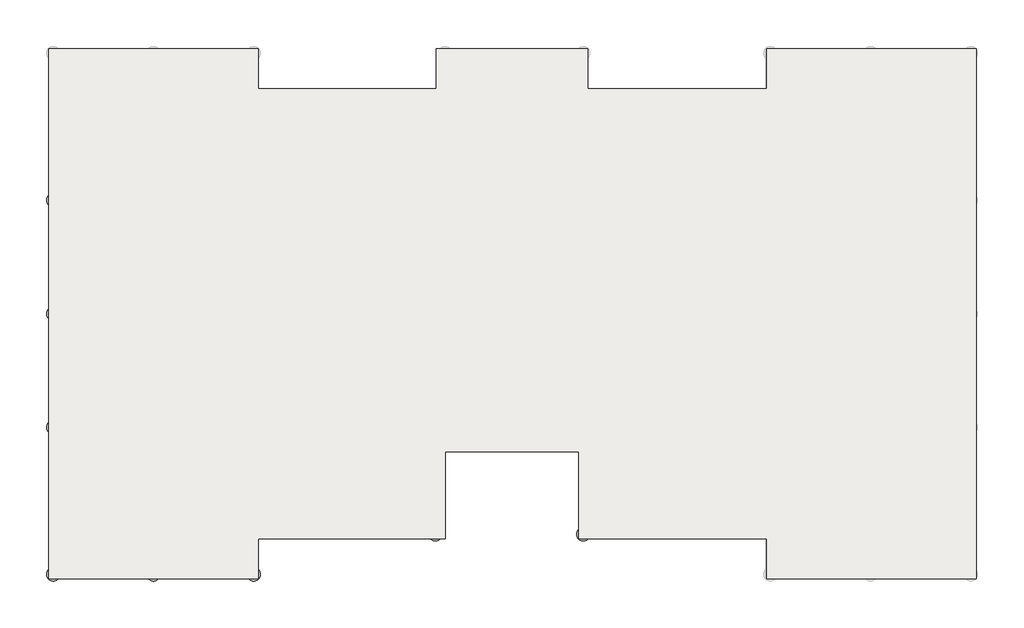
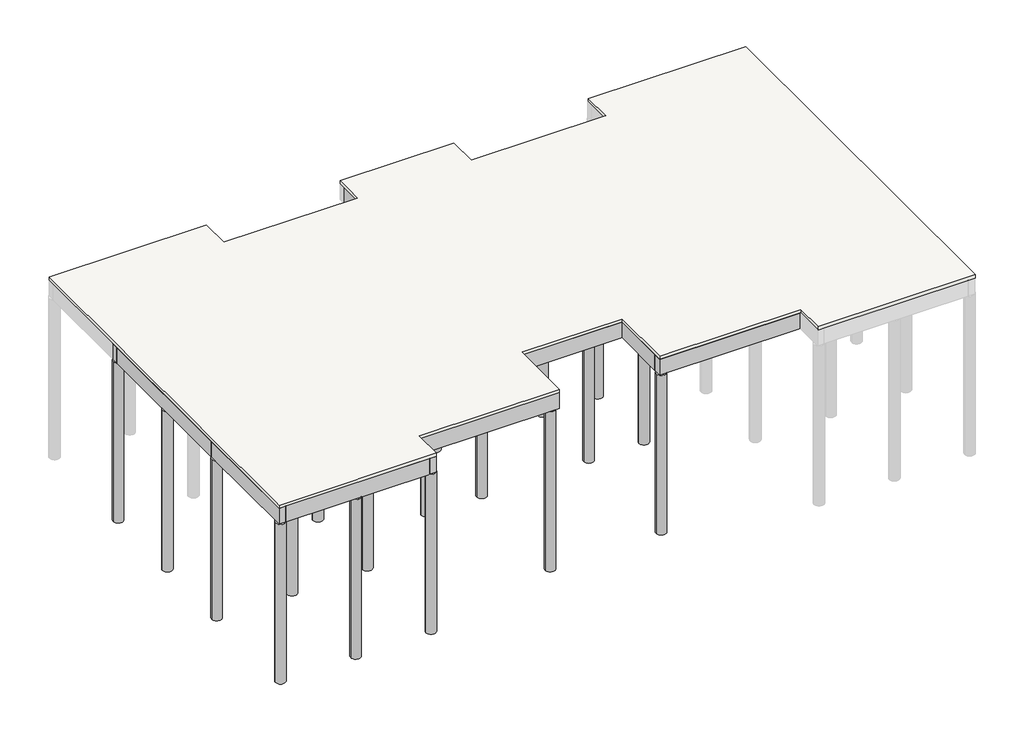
# One storey, part 1 of 2: 20 beams, 19 columns, 1 slab.
"""IFC4 building model written with IfcOpenShell, lengths in millimetres."""

from ifc_helpers import new_model, si_unit, point, frame, frame_2d, origin, place, context, project, spatial, polyline, circle_curve, trimmed, segment, composite_curve, outline, extrude, faceted_brep, element, save

model = new_model("IFC4")

# Units and contexts
model_context = context("Model", 3, world=origin())
ifc_project = project(units=[si_unit("LENGTHUNIT", "METRE", prefix="MILLI")], contexts=[model_context])

# Site, building, storey
site = spatial("IfcSite", under=ifc_project)
building = spatial("IfcBuilding", under=site)
storey = spatial("IfcBuildingStorey", under=building, Name="Baldrame", Elevation=-100.0)

# Beams
placement = place(None, origin())
element("IfcBeam", 1, ObjectType="Viga retangular : 20 x 30", at=placement, inside=storey, context=model_context, shape_type="SweptSolid", body=[
    extrude(outline(polyline([(4500.0002754, 2899.9968464), (4500.0002754, 2699.9968464), (3349.9999153, 2699.9968464), (3349.9999153, 2899.9968464), (4500.0002754, 2899.9968464)])), frame((0.0, 0.0, -400.0), z_axis=(0.0, 0.0, 1.0), x_axis=(1.0, 0.0, 0.0)), (0.0, 0.0, 1.0), 300.0),
])
element("IfcBeam", 2, ObjectType="Viga retangular : 20 x 30", at=placement, inside=storey, context=model_context, shape_type="SweptSolid", body=[
    extrude(outline(polyline([(7249.9960549, 5099.9992075), (7249.9960549, 5299.9992075), (8699.999281, 5299.9992075), (8699.999281, 5099.9992075), (7249.9960549, 5099.9992075)])), frame((0.0, 0.0, -400.0), z_axis=(0.0, 0.0, 1.0), x_axis=(1.0, 0.0, 0.0)), (0.0, 0.0, 1.0), 300.0),
])
element("IfcBeam", 3, ObjectType="Viga retangular : 20 x 30", at=placement, inside=storey, context=model_context, shape_type="SweptSolid", body=[
    extrude(outline(polyline([(7249.9960549, 7500.0067762), (7249.9960549, 7700.0067762), (8699.999281, 7700.0067762), (8699.999281, 7500.0067762), (7249.9960549, 7500.0067762)])), frame((0.0, 0.0, -400.0), z_axis=(0.0, 0.0, 1.0), x_axis=(1.0, 0.0, 0.0)), (0.0, 0.0, 1.0), 300.0),
])
element("IfcBeam", 4, ObjectType="Viga retangular : 20 x 30", at=placement, inside=storey, context=model_context, shape_type="SweptSolid", body=[
    extrude(outline(polyline([(13549.9952153, 7700.0067762), (13549.9952153, 7500.0067762), (12099.9983388, 7500.0067762), (12099.9983388, 7700.0067762), (13549.9952153, 7700.0067762)])), frame((0.0, 0.0, -400.0), z_axis=(0.0, 0.0, 1.0), x_axis=(1.0, 0.0, 0.0)), (0.0, 0.0, 1.0), 300.0),
])
element("IfcBeam", 5, ObjectType="Viga retangular : 20 x 30", at=placement, inside=storey, context=model_context, shape_type="SweptSolid", body=[
    extrude(outline(polyline([(13549.9952153, 5299.9989147), (13549.9952153, 5099.9989147), (12099.9983388, 5099.9989147), (12099.9983388, 5299.9989147), (13549.9952153, 5299.9989147)])), frame((0.0, 0.0, -400.0), z_axis=(0.0, 0.0, 1.0), x_axis=(1.0, 0.0, 0.0)), (0.0, 0.0, 1.0), 300.0),
])
element("IfcBeam", 6, ObjectType="Viga retangular : 20 x 50", at=placement, inside=storey, context=model_context, shape_type="Brep", body=[
    faceted_brep([(4500.0002754, 449.9952456, -100.0), (4700.0002754, 449.9952456, -100.0), (4700.0002754, 1349.9984985, -100.0), (4700.0002754, 1599.9984985, -100.0), (4700.0002754, 6300.0104083, -100.0), (4700.0002754, 6500.0104083, -100.0), (4700.0002754, 11200.007048, -100.0), (4700.0002754, 11450.007048, -100.0), (4700.0002754, 12150.0105618, -100.0), (4500.0002754, 12150.0105618, -100.0), (4500.0002754, 10100.0088444, -100.0), (4500.0002754, 9900.0088444, -100.0), (4500.0002754, 9050.0104593, -100.0), (4500.0002754, 8850.0104593, -100.0), (4500.0002754, 6500.0104083, -100.0), (4500.0002754, 6300.0104083, -100.0), (4500.0002754, 3949.995348, -100.0), (4500.0002754, 3749.995348, -100.0), (4500.0002754, 2899.9968464, -100.0), (4500.0002754, 2699.9968464, -100.0), (4500.0002754, 649.9952456, -100.0), (4700.0002754, 449.9952456, -600.0), (4700.0002754, 1349.9984985, -600.0), (4700.0002754, 1599.9984985, -600.0), (4700.0002754, 6300.0104083, -600.0), (4700.0002754, 6500.0104083, -600.0), (4700.0002754, 11200.007048, -600.0), (4700.0002754, 11450.007048, -600.0), (4700.0002754, 12150.0105618, -600.0), (4500.0002754, 449.9952456, -600.0), (4500.0002754, 649.9952456, -600.0), (4500.0002754, 3749.995348, -600.0), (4500.0002754, 3949.995348, -600.0), (4500.0002754, 6300.0104083, -600.0), (4500.0002754, 6500.0104083, -600.0), (4500.0002754, 8850.0104593, -600.0), (4500.0002754, 9050.0104593, -600.0), (4500.0002754, 12150.0105618, -600.0)], [[[0, 1, 2, 3, 4, 5, 6, 7, 8, 9, 10, 11, 12, 13, 14, 15, 16, 17, 18, 19, 20]], [[1, 21, 22, 23, 24, 25, 26, 27, 28, 8, 7, 6, 5, 4, 3, 2]], [[21, 29, 30, 31, 32, 33, 34, 35, 36, 37, 28, 27, 26, 25, 24, 23, 22]], [[29, 0, 20, 19, 18, 17, 16, 15, 14, 13, 12, 11, 10, 9, 37, 36, 35, 34, 33, 32, 31, 30]], [[9, 8, 28, 37]], [[1, 0, 29, 21]]]),
])
element("IfcBeam", 7, ObjectType="Viga retangular : 20 x 50", at=placement, inside=storey, context=model_context, shape_type="Brep", body=[
    faceted_brep([(8699.999281, 1599.9984985, -100.0), (8899.999281, 1599.9984985, -100.0), (8899.999281, 3300.0046088, -100.0), (8899.999281, 3500.0046088, -100.0), (8899.999281, 12149.9988127, -100.0), (8699.999281, 12149.9988127, -100.0), (8699.999281, 11450.007048, -100.0), (8699.999281, 11200.007048, -100.0), (8699.999281, 7700.0067762, -100.0), (8699.999281, 7500.0067762, -100.0), (8699.999281, 5299.9992075, -100.0), (8699.999281, 5099.9992075, -100.0), (8899.999281, 1599.9984985, -600.0), (8899.999281, 3300.0046088, -600.0), (8899.999281, 3500.0046088, -600.0), (8899.999281, 12149.9988127, -600.0), (8699.999281, 1599.9984985, -600.0), (8699.999281, 11200.007048, -600.0), (8699.999281, 11450.007048, -600.0), (8699.999281, 12149.9988127, -600.0)], [[[0, 1, 2, 3, 4, 5, 6, 7, 8, 9, 10, 11]], [[1, 12, 13, 14, 15, 4, 3, 2]], [[12, 16, 17, 18, 19, 15, 14, 13]], [[16, 0, 11, 10, 9, 8, 7, 6, 5, 19, 18, 17]], [[1, 0, 16, 12]], [[5, 4, 15, 19]]]),
])
element("IfcBeam", 8, ObjectType="Viga retangular : 20 x 50", at=placement, inside=storey, context=model_context, shape_type="Brep", body=[
    faceted_brep([(1.84e-05, 449.9952456, -100.0), (200.0000184, 449.9952456, -100.0), (200.0000184, 649.9952456, -100.0), (200.0000184, 3749.995348, -100.0), (200.0000184, 3949.995348, -100.0), (1.84e-05, 3949.995348, -100.0), (200.0000184, 449.9952456, -600.0), (200.0000184, 649.9952456, -600.0), (200.0000184, 3749.995348, -600.0), (200.0000184, 3949.995348, -600.0), (1.84e-05, 449.9952456, -600.0), (1.84e-05, 3949.995348, -600.0)], [[[0, 1, 2, 3, 4, 5]], [[1, 6, 7, 8, 9, 4, 3, 2]], [[6, 10, 11, 9, 8, 7]], [[10, 0, 5, 11]], [[1, 0, 10, 6]], [[5, 4, 9, 11]]]),
])
element("IfcBeam", 9, ObjectType="Viga retangular : 20 x 50", at=placement, inside=storey, context=model_context, shape_type="Brep", body=[
    faceted_brep([(4500.0002754, 3749.995348, -100.0), (4500.0002754, 3949.995348, -100.0), (200.0000184, 3949.995348, -100.0), (200.0000184, 3749.995348, -100.0), (3149.9999153, 3749.995348, -100.0), (3349.9999153, 3749.995348, -100.0), (4500.0002754, 3749.995348, -600.0), (200.0000184, 3749.995348, -600.0), (3149.9999153, 3749.995348, -600.0), (3349.9999153, 3749.995348, -600.0), (4500.0002754, 3949.995348, -600.0), (200.0000184, 3949.995348, -600.0)], [[[0, 1, 2, 3, 4, 5]], [[6, 0, 5, 4, 3, 7, 8, 9]], [[10, 6, 9, 8, 7, 11]], [[1, 10, 11, 2]], [[1, 0, 6, 10]], [[3, 2, 11, 7]]]),
])
element("IfcBeam", 10, ObjectType="Viga retangular : 20 x 50", at=placement, inside=storey, context=model_context, shape_type="Brep", body=[
    faceted_brep([(1.84e-05, 3949.995348, -100.0), (200.0000184, 3949.995348, -100.0), (200.0000184, 6300.0104083, -100.0), (200.0000184, 6500.0104083, -100.0), (200.0000184, 8850.0104593, -100.0), (1.84e-05, 8850.0104593, -100.0), (200.0000184, 3949.995348, -600.0), (200.0000184, 6300.0104083, -600.0), (200.0000184, 6500.0104083, -600.0), (200.0000184, 8850.0104593, -600.0), (1.84e-05, 3949.995348, -600.0), (1.84e-05, 8850.0104593, -600.0)], [[[0, 1, 2, 3, 4, 5]], [[1, 6, 7, 8, 9, 4, 3, 2]], [[6, 10, 11, 9, 8, 7]], [[10, 0, 5, 11]], [[1, 0, 10, 6]], [[5, 4, 9, 11]]]),
])
element("IfcBeam", 11, ObjectType="Viga retangular : 20 x 50", at=placement, inside=storey, context=model_context, shape_type="Brep", body=[
    faceted_brep([(1.84e-05, 9050.0104593, -100.0), (1.84e-05, 8850.0104593, -100.0), (200.0000184, 8850.0104593, -100.0), (4500.0002754, 8850.0104593, -100.0), (4500.0002754, 9050.0104593, -100.0), (3349.9979087, 9050.0104593, -100.0), (3149.9979087, 9050.0104593, -100.0), (200.0000184, 9050.0104593, -100.0), (1.84e-05, 8850.0104593, -600.0), (200.0000184, 8850.0104593, -600.0), (4500.0002754, 8850.0104593, -600.0), (1.84e-05, 9050.0104593, -600.0), (200.0000184, 9050.0104593, -600.0), (3149.9979087, 9050.0104593, -600.0), (3349.9979087, 9050.0104593, -600.0), (4500.0002754, 9050.0104593, -600.0)], [[[0, 1, 2, 3, 4, 5, 6, 7]], [[1, 8, 9, 10, 3, 2]], [[8, 11, 12, 13, 14, 15, 10, 9]], [[11, 0, 7, 6, 5, 4, 15, 14, 13, 12]], [[4, 3, 10, 15]], [[1, 0, 11, 8]]]),
])
element("IfcBeam", 12, ObjectType="Viga retangular : 20 x 50", at=placement, inside=storey, context=model_context, shape_type="SweptSolid", body=[
    extrude(outline(polyline([(4700.0002754, 6300.0104083), (4700.0002754, 6500.0104083), (7049.9960549, 6500.0104083), (7049.9960549, 6300.0104083), (4700.0002754, 6300.0104083)])), frame((0.0, 0.0, -600.0), z_axis=(0.0, 0.0, 1.0), x_axis=(1.0, 0.0, 0.0)), (0.0, 0.0, 1.0), 500.0),
    extrude(outline(polyline([(4500.0002754, 6500.0104083), (4500.0002754, 6300.0104083), (200.0000184, 6300.0104083), (200.0000184, 6500.0104083), (4500.0002754, 6500.0104083)])), frame((0.0, 0.0, -600.0), z_axis=(0.0, 0.0, 1.0), x_axis=(1.0, 0.0, 0.0)), (0.0, 0.0, 1.0), 500.0),
])
element("IfcBeam", 13, ObjectType="Viga retangular : 20 x 50", at=placement, inside=storey, context=model_context, shape_type="Brep", body=[
    faceted_brep([(3349.9999153, 3749.995348, -100.0), (3149.9999153, 3749.995348, -100.0), (3149.9999153, 649.9952456, -100.0), (3349.9999153, 649.9952456, -100.0), (3349.9999153, 2699.9968464, -100.0), (3349.9999153, 2899.9968464, -100.0), (3349.9999153, 3749.995348, -600.0), (3349.9999153, 649.9952456, -600.0), (3149.9999153, 3749.995348, -600.0), (3149.9999153, 649.9952456, -600.0)], [[[0, 1, 2, 3, 4, 5]], [[6, 0, 5, 4, 3, 7]], [[8, 6, 7, 9]], [[1, 8, 9, 2]], [[1, 0, 6, 8]], [[3, 2, 9, 7]]]),
])
element("IfcBeam", 14, ObjectType="Viga retangular : 20 x 50", at=placement, inside=storey, context=model_context, shape_type="Brep", body=[
    faceted_brep([(4500.0002754, 449.9952456, -100.0), (4500.0002754, 649.9952456, -100.0), (3349.9999153, 649.9952456, -100.0), (3149.9999153, 649.9952456, -100.0), (200.0000184, 649.9952456, -100.0), (200.0000184, 449.9952456, -100.0), (4500.0002754, 449.9952456, -600.0), (200.0000184, 449.9952456, -600.0), (4500.0002754, 649.9952456, -600.0), (200.0000184, 649.9952456, -600.0), (3149.9999153, 649.9952456, -600.0), (3349.9999153, 649.9952456, -600.0)], [[[0, 1, 2, 3, 4, 5]], [[6, 0, 5, 7]], [[8, 6, 7, 9, 10, 11]], [[1, 8, 11, 10, 9, 4, 3, 2]], [[1, 0, 6, 8]], [[5, 4, 9, 7]]]),
])
element("IfcBeam", 15, ObjectType="Viga retangular : 20 x 50", at=placement, inside=storey, context=model_context, shape_type="Brep", body=[
    faceted_brep([(7249.9960549, 11200.007048, -100.0), (7049.9960549, 11200.007048, -100.0), (7049.9960549, 6500.0104083, -100.0), (7049.9960549, 6300.0104083, -100.0), (7049.9960549, 1599.9984985, -100.0), (7249.9960549, 1599.9984985, -100.0), (7249.9960549, 5099.9992075, -100.0), (7249.9960549, 5299.9992075, -100.0), (7249.9960549, 7500.0067762, -100.0), (7249.9960549, 7700.0067762, -100.0), (7249.9960549, 11200.007048, -600.0), (7249.9960549, 1599.9984985, -600.0), (7049.9960549, 11200.007048, -600.0), (7049.9960549, 1599.9984985, -600.0), (7049.9960549, 6300.0104083, -600.0), (7049.9960549, 6500.0104083, -600.0)], [[[0, 1, 2, 3, 4, 5, 6, 7, 8, 9]], [[10, 0, 9, 8, 7, 6, 5, 11]], [[12, 10, 11, 13, 14, 15]], [[1, 12, 15, 14, 13, 4, 3, 2]], [[1, 0, 10, 12]], [[5, 4, 13, 11]]]),
])
element("IfcBeam", 16, ObjectType="Viga retangular : 20 x 50", at=placement, inside=storey, context=model_context, shape_type="SweptSolid", body=[
    extrude(outline(polyline([(8899.999281, 3300.0046088), (8899.999281, 3500.0046088), (11899.9983388, 3500.0046088), (11899.9983388, 3300.0046088), (8899.999281, 3300.0046088)])), frame((0.0, 0.0, -600.0), z_axis=(0.0, 0.0, 1.0), x_axis=(1.0, 0.0, 0.0)), (0.0, 0.0, 1.0), 500.0),
])
element("IfcBeam", 17, ObjectType="Viga retangular : 20 x 50", at=placement, inside=storey, context=model_context, shape_type="Brep", body=[
    faceted_brep([(13549.9952153, 1599.9990079, -100.0), (13749.9952153, 1599.9990079, -100.0), (13749.9952153, 6300.0028454, -100.0), (13749.9952153, 6500.0028454, -100.0), (13749.9952153, 11200.0071923, -100.0), (13549.9952153, 11200.0071923, -100.0), (13549.9952153, 7700.0067762, -100.0), (13549.9952153, 7500.0067762, -100.0), (13549.9952153, 5299.9989147, -100.0), (13549.9952153, 5099.9989147, -100.0), (13749.9952153, 1599.9990079, -600.0), (13749.9952153, 6300.0028454, -600.0), (13749.9952153, 6500.0028454, -600.0), (13749.9952153, 11200.0071923, -600.0), (13549.9952153, 1599.9990079, -600.0), (13549.9952153, 11200.0071923, -600.0)], [[[0, 1, 2, 3, 4, 5, 6, 7, 8, 9]], [[1, 10, 11, 12, 13, 4, 3, 2]], [[10, 14, 15, 13, 12, 11]], [[14, 0, 9, 8, 7, 6, 5, 15]], [[1, 0, 14, 10]], [[5, 4, 13, 15]]]),
])
element("IfcBeam", 18, ObjectType="Viga retangular : 20 x 50", at=placement, inside=storey, context=model_context, shape_type="Brep", body=[
    faceted_brep([(11899.9983388, 1599.9990079, -100.0), (12099.9983388, 1599.9990079, -100.0), (12099.9983388, 5099.9989147, -100.0), (12099.9983388, 5299.9989147, -100.0), (12099.9983388, 7500.0067762, -100.0), (12099.9983388, 7700.0067762, -100.0), (12099.9983388, 10900.0024617, -100.0), (11899.9983388, 10900.0024617, -100.0), (11899.9983388, 3500.0046088, -100.0), (11899.9983388, 3300.0046088, -100.0), (12099.9983388, 1599.9990079, -600.0), (12099.9983388, 10900.0024617, -600.0), (11899.9983388, 1599.9990079, -600.0), (11899.9983388, 3300.0046088, -600.0), (11899.9983388, 3500.0046088, -600.0), (11899.9983388, 10900.0024617, -600.0)], [[[0, 1, 2, 3, 4, 5, 6, 7, 8, 9]], [[1, 10, 11, 6, 5, 4, 3, 2]], [[10, 12, 13, 14, 15, 11]], [[12, 0, 9, 8, 7, 15, 14, 13]], [[1, 0, 12, 10]], [[7, 6, 11, 15]]]),
])
element("IfcBeam", 19, ObjectType="Viga retangular : 25 x 50", at=placement, inside=storey, context=model_context, shape_type="Brep", body=[
    faceted_brep([(8899.999281, 1349.9984985, -100.0), (8899.999281, 1599.9984985, -100.0), (8699.999281, 1599.9984985, -100.0), (7249.9960549, 1599.9984985, -100.0), (7049.9960549, 1599.9984985, -100.0), (4700.0002754, 1599.9984985, -100.0), (4700.0002754, 1349.9984985, -100.0), (8899.999281, 1349.9984985, -600.0), (4700.0002754, 1349.9984985, -600.0), (8899.999281, 1599.9984985, -600.0), (4700.0002754, 1599.9984985, -600.0), (7049.9960549, 1599.9984985, -600.0), (7249.9960549, 1599.9984985, -600.0), (8699.999281, 1599.9984985, -600.0)], [[[0, 1, 2, 3, 4, 5, 6]], [[7, 0, 6, 8]], [[9, 7, 8, 10, 11, 12, 13]], [[1, 9, 13, 12, 11, 10, 5, 4, 3, 2]], [[6, 5, 10, 8]], [[1, 0, 7, 9]]]),
])
element("IfcBeam", 20, ObjectType="Viga retangular : 25 x 50", at=placement, inside=storey, context=model_context, shape_type="Brep", body=[
    faceted_brep([(11899.9983388, 1599.9990079, -100.0), (11899.9983388, 1349.9990079, -100.0), (16099.9991493, 1349.9990079, -100.0), (16099.9991493, 1599.9990079, -100.0), (13749.9952153, 1599.9990079, -100.0), (13549.9952153, 1599.9990079, -100.0), (12099.9983388, 1599.9990079, -100.0), (11899.9983388, 1349.9990079, -600.0), (16099.9991493, 1349.9990079, -600.0), (11899.9983388, 1599.9990079, -600.0), (12099.9983388, 1599.9990079, -600.0), (13549.9952153, 1599.9990079, -600.0), (13749.9952153, 1599.9990079, -600.0), (16099.9991493, 1599.9990079, -600.0)], [[[0, 1, 2, 3, 4, 5, 6]], [[1, 7, 8, 2]], [[7, 9, 10, 11, 12, 13, 8]], [[9, 0, 6, 5, 4, 3, 13, 12, 11, 10]], [[3, 2, 8, 13]], [[1, 0, 9, 7]]]),
])

# Columns
element("IfcColumn", 21, ObjectType="Estaca de Concreto : Estaca de Concreto  Ø30", at=placement, inside=storey, context=model_context, shape_type="SweptSolid", body=[
    extrude(outline(composite_curve([segment(trimmed(circle_curve(frame_2d((100.0000184, 8950.0104593)), 150.0), [point((-49.9999816, 8950.0104593))], [point((250.0000184, 8950.0104593))], False, "CARTESIAN"), True, "CONTINUOUS"), segment(trimmed(circle_curve(frame_2d((100.0000184, 8950.0104593)), 150.0), [point((250.0000184, 8950.0104593))], [point((-49.9999816, 8950.0104593))], False, "CARTESIAN"), True, "CONTINUOUS")], self_intersect=False)), frame((0.0, 0.0, -5650.0), z_axis=(0.0, 0.0, 1.0), x_axis=(1.0, 0.0, 0.0)), (0.0, 0.0, 1.0), 5050.0),
])
element("IfcColumn", 22, ObjectType="Estaca de Concreto : Estaca de Concreto  Ø30", at=placement, inside=storey, context=model_context, shape_type="SweptSolid", body=[
    extrude(outline(composite_curve([segment(trimmed(circle_curve(frame_2d((100.0000184, 6400.0104083)), 150.0), [point((-49.9999816, 6400.0104083))], [point((250.0000184, 6400.0104083))], False, "CARTESIAN"), True, "CONTINUOUS"), segment(trimmed(circle_curve(frame_2d((100.0000184, 6400.0104083)), 150.0), [point((250.0000184, 6400.0104083))], [point((-49.9999816, 6400.0104083))], False, "CARTESIAN"), True, "CONTINUOUS")], self_intersect=False)), frame((0.0, 0.0, -5650.0), z_axis=(0.0, 0.0, 1.0), x_axis=(1.0, 0.0, 0.0)), (0.0, 0.0, 1.0), 5050.0),
])
element("IfcColumn", 23, ObjectType="Estaca de Concreto : Estaca de Concreto  Ø30", at=placement, inside=storey, context=model_context, shape_type="SweptSolid", body=[
    extrude(outline(composite_curve([segment(trimmed(circle_curve(frame_2d((4599.9984727, 6400.0059093)), 150.0), [point((4449.9984727, 6400.0059093))], [point((4749.9984727, 6400.0059093))], False, "CARTESIAN"), True, "CONTINUOUS"), segment(trimmed(circle_curve(frame_2d((4599.9984727, 6400.0059093)), 150.0), [point((4749.9984727, 6400.0059093))], [point((4449.9984727, 6400.0059093))], False, "CARTESIAN"), True, "CONTINUOUS")], self_intersect=False)), frame((0.0, 0.0, -5650.0), z_axis=(0.0, 0.0, 1.0), x_axis=(1.0, 0.0, 0.0)), (0.0, 0.0, 1.0), 5050.0),
])
element("IfcColumn", 24, ObjectType="Estaca de Concreto : Estaca de Concreto  Ø30", at=placement, inside=storey, context=model_context, shape_type="SweptSolid", body=[
    extrude(outline(composite_curve([segment(trimmed(circle_curve(frame_2d((100.0000184, 3849.995348)), 150.0), [point((-49.9999816, 3849.995348))], [point((250.0000184, 3849.995348))], False, "CARTESIAN"), True, "CONTINUOUS"), segment(trimmed(circle_curve(frame_2d((100.0000184, 3849.995348)), 150.0), [point((250.0000184, 3849.995348))], [point((-49.9999816, 3849.995348))], False, "CARTESIAN"), True, "CONTINUOUS")], self_intersect=False)), frame((0.0, 0.0, -5650.0), z_axis=(0.0, 0.0, 1.0), x_axis=(1.0, 0.0, 0.0)), (0.0, 0.0, 1.0), 5050.0),
])
element("IfcColumn", 25, ObjectType="Estaca de Concreto : Estaca de Concreto  Ø30", at=placement, inside=storey, context=model_context, shape_type="SweptSolid", body=[
    extrude(outline(composite_curve([segment(trimmed(circle_curve(frame_2d((4600.0002754, 3849.9921964)), 150.0), [point((4450.0002754, 3849.9921964))], [point((4750.0002754, 3849.9921964))], False, "CARTESIAN"), True, "CONTINUOUS"), segment(trimmed(circle_curve(frame_2d((4600.0002754, 3849.9921964)), 150.0), [point((4750.0002754, 3849.9921964))], [point((4450.0002754, 3849.9921964))], False, "CARTESIAN"), True, "CONTINUOUS")], self_intersect=False)), frame((0.0, 0.0, -5650.0), z_axis=(0.0, 0.0, 1.0), x_axis=(1.0, 0.0, 0.0)), (0.0, 0.0, 1.0), 5050.0),
])
element("IfcColumn", 26, ObjectType="Estaca de Concreto : Estaca de Concreto  Ø30", at=placement, inside=storey, context=model_context, shape_type="SweptSolid", body=[
    extrude(outline(composite_curve([segment(trimmed(circle_curve(frame_2d((4600.0002754, 549.9907876)), 150.0), [point((4450.0002754, 549.9907876))], [point((4750.0002754, 549.9907876))], False, "CARTESIAN"), True, "CONTINUOUS"), segment(trimmed(circle_curve(frame_2d((4600.0002754, 549.9907876)), 150.0), [point((4750.0002754, 549.9907876))], [point((4450.0002754, 549.9907876))], False, "CARTESIAN"), True, "CONTINUOUS")], self_intersect=False)), frame((0.0, 0.0, -5650.0), z_axis=(0.0, 0.0, 1.0), x_axis=(1.0, 0.0, 0.0)), (0.0, 0.0, 1.0), 5050.0),
])
element("IfcColumn", 27, ObjectType="Estaca de Concreto : Estaca de Concreto  Ø30", at=placement, inside=storey, context=model_context, shape_type="SweptSolid", body=[
    extrude(outline(composite_curve([segment(trimmed(circle_curve(frame_2d((100.0000184, 549.9952456)), 150.0), [point((-49.9999816, 549.9952456))], [point((250.0000184, 549.9952456))], False, "CARTESIAN"), True, "CONTINUOUS"), segment(trimmed(circle_curve(frame_2d((100.0000184, 549.9952456)), 150.0), [point((250.0000184, 549.9952456))], [point((-49.9999816, 549.9952456))], False, "CARTESIAN"), True, "CONTINUOUS")], self_intersect=False)), frame((0.0, 0.0, -5650.0), z_axis=(0.0, 0.0, 1.0), x_axis=(1.0, 0.0, 0.0)), (0.0, 0.0, 1.0), 5050.0),
])
element("IfcColumn", 28, ObjectType="Estaca de Concreto : Estaca de Concreto  Ø30", at=placement, inside=storey, context=model_context, shape_type="SweptSolid", body=[
    extrude(outline(composite_curve([segment(trimmed(circle_curve(frame_2d((8679.999281, 1449.9990079)), 150.0), [point((8529.999281, 1449.9990079))], [point((8829.999281, 1449.9990079))], False, "CARTESIAN"), True, "CONTINUOUS"), segment(trimmed(circle_curve(frame_2d((8679.999281, 1449.9990079)), 150.0), [point((8829.999281, 1449.9990079))], [point((8529.999281, 1449.9990079))], False, "CARTESIAN"), True, "CONTINUOUS")], self_intersect=False)), frame((0.0, 0.0, -5650.0), z_axis=(0.0, 0.0, 1.0), x_axis=(1.0, 0.0, 0.0)), (0.0, 0.0, 1.0), 5050.0),
])
element("IfcColumn", 29, ObjectType="Estaca de Concreto : Estaca de Concreto  Ø30", at=placement, inside=storey, context=model_context, shape_type="SweptSolid", body=[
    extrude(outline(composite_curve([segment(trimmed(circle_curve(frame_2d((7149.9960549, 5199.9992075)), 150.0), [point((6999.9960549, 5199.9992075))], [point((7299.9960549, 5199.9992075))], False, "CARTESIAN"), True, "CONTINUOUS"), segment(trimmed(circle_curve(frame_2d((7149.9960549, 5199.9992075)), 150.0), [point((7299.9960549, 5199.9992075))], [point((6999.9960549, 5199.9992075))], False, "CARTESIAN"), True, "CONTINUOUS")], self_intersect=False)), frame((0.0, 0.0, -5650.0), z_axis=(0.0, 0.0, 1.0), x_axis=(1.0, 0.0, 0.0)), (0.0, 0.0, 1.0), 5050.0),
])
element("IfcColumn", 30, ObjectType="Estaca de Concreto : Estaca de Concreto  Ø30", at=placement, inside=storey, context=model_context, shape_type="SweptSolid", body=[
    extrude(outline(composite_curve([segment(trimmed(circle_curve(frame_2d((7149.9960549, 7600.0067762)), 150.0), [point((6999.9960549, 7600.0067762))], [point((7299.9960549, 7600.0067762))], False, "CARTESIAN"), True, "CONTINUOUS"), segment(trimmed(circle_curve(frame_2d((7149.9960549, 7600.0067762)), 150.0), [point((7299.9960549, 7600.0067762))], [point((6999.9960549, 7600.0067762))], False, "CARTESIAN"), True, "CONTINUOUS")], self_intersect=False)), frame((0.0, 0.0, -5650.0), z_axis=(0.0, 0.0, 1.0), x_axis=(1.0, 0.0, 0.0)), (0.0, 0.0, 1.0), 5050.0),
])
element("IfcColumn", 31, ObjectType="Estaca de Concreto : Estaca de Concreto  Ø30", at=placement, inside=storey, context=model_context, shape_type="SweptSolid", body=[
    extrude(outline(composite_curve([segment(trimmed(circle_curve(frame_2d((8799.9960555, 5199.9992075)), 150.0), [point((8649.9960555, 5199.9992075))], [point((8949.9960555, 5199.9992075))], False, "CARTESIAN"), True, "CONTINUOUS"), segment(trimmed(circle_curve(frame_2d((8799.9960555, 5199.9992075)), 150.0), [point((8949.9960555, 5199.9992075))], [point((8649.9960555, 5199.9992075))], False, "CARTESIAN"), True, "CONTINUOUS")], self_intersect=False)), frame((0.0, 0.0, -5650.0), z_axis=(0.0, 0.0, 1.0), x_axis=(1.0, 0.0, 0.0)), (0.0, 0.0, 1.0), 5050.0),
])
element("IfcColumn", 32, ObjectType="Estaca de Concreto : Estaca de Concreto  Ø30", at=placement, inside=storey, context=model_context, shape_type="SweptSolid", body=[
    extrude(outline(composite_curve([segment(trimmed(circle_curve(frame_2d((8799.9960555, 7600.0070725)), 150.0), [point((8649.9960555, 7600.0070725))], [point((8949.9960555, 7600.0070725))], False, "CARTESIAN"), True, "CONTINUOUS"), segment(trimmed(circle_curve(frame_2d((8799.9960555, 7600.0070725)), 150.0), [point((8949.9960555, 7600.0070725))], [point((8649.9960555, 7600.0070725))], False, "CARTESIAN"), True, "CONTINUOUS")], self_intersect=False)), frame((0.0, 0.0, -5650.0), z_axis=(0.0, 0.0, 1.0), x_axis=(1.0, 0.0, 0.0)), (0.0, 0.0, 1.0), 5050.0),
])
element("IfcColumn", 33, ObjectType="Estaca de Concreto : Estaca de Concreto  Ø30", at=placement, inside=storey, context=model_context, shape_type="SweptSolid", body=[
    extrude(outline(composite_curve([segment(trimmed(circle_curve(frame_2d((2350.0001469, 3849.995348)), 150.0), [point((2200.0001469, 3849.995348))], [point((2500.0001469, 3849.995348))], False, "CARTESIAN"), True, "CONTINUOUS"), segment(trimmed(circle_curve(frame_2d((2350.0001469, 3849.995348)), 150.0), [point((2500.0001469, 3849.995348))], [point((2200.0001469, 3849.995348))], False, "CARTESIAN"), True, "CONTINUOUS")], self_intersect=False)), frame((0.0, 0.0, -5650.0), z_axis=(0.0, 0.0, 1.0), x_axis=(1.0, 0.0, 0.0)), (0.0, 0.0, 1.0), 5050.0),
])
element("IfcColumn", 34, ObjectType="Estaca de Concreto : Estaca de Concreto  Ø30", at=placement, inside=storey, context=model_context, shape_type="SweptSolid", body=[
    extrude(outline(composite_curve([segment(trimmed(circle_curve(frame_2d((2350.0001469, 549.9952456)), 150.0), [point((2200.0001469, 549.9952456))], [point((2500.0001469, 549.9952456))], False, "CARTESIAN"), True, "CONTINUOUS"), segment(trimmed(circle_curve(frame_2d((2350.0001469, 549.9952456)), 150.0), [point((2500.0001469, 549.9952456))], [point((2200.0001469, 549.9952456))], False, "CARTESIAN"), True, "CONTINUOUS")], self_intersect=False)), frame((0.0, 0.0, -5650.0), z_axis=(0.0, 0.0, 1.0), x_axis=(1.0, 0.0, 0.0)), (0.0, 0.0, 1.0), 5050.0),
])
element("IfcColumn", 35, ObjectType="Estaca de Concreto : Estaca de Concreto  Ø30", at=placement, inside=storey, context=model_context, shape_type="SweptSolid", body=[
    extrude(outline(composite_curve([segment(trimmed(circle_curve(frame_2d((13649.9952153, 5199.9989147)), 150.0), [point((13499.9952153, 5199.9989147))], [point((13799.9952153, 5199.9989147))], False, "CARTESIAN"), True, "CONTINUOUS"), segment(trimmed(circle_curve(frame_2d((13649.9952153, 5199.9989147)), 150.0), [point((13799.9952153, 5199.9989147))], [point((13499.9952153, 5199.9989147))], False, "CARTESIAN"), True, "CONTINUOUS")], self_intersect=False)), frame((0.0, 0.0, -5650.0), z_axis=(0.0, 0.0, 1.0), x_axis=(1.0, 0.0, 0.0)), (0.0, 0.0, 1.0), 5050.0),
])
element("IfcColumn", 36, ObjectType="Estaca de Concreto : Estaca de Concreto  Ø30", at=placement, inside=storey, context=model_context, shape_type="SweptSolid", body=[
    extrude(outline(composite_curve([segment(trimmed(circle_curve(frame_2d((13649.9952153, 7600.0067762)), 150.0), [point((13499.9952153, 7600.0067762))], [point((13799.9952153, 7600.0067762))], False, "CARTESIAN"), True, "CONTINUOUS"), segment(trimmed(circle_curve(frame_2d((13649.9952153, 7600.0067762)), 150.0), [point((13799.9952153, 7600.0067762))], [point((13499.9952153, 7600.0067762))], False, "CARTESIAN"), True, "CONTINUOUS")], self_intersect=False)), frame((0.0, 0.0, -5650.0), z_axis=(0.0, 0.0, 1.0), x_axis=(1.0, 0.0, 0.0)), (0.0, 0.0, 1.0), 5050.0),
])
element("IfcColumn", 37, ObjectType="Estaca de Concreto : Estaca de Concreto  Ø30", at=placement, inside=storey, context=model_context, shape_type="SweptSolid", body=[
    extrude(outline(composite_curve([segment(trimmed(circle_curve(frame_2d((11999.9983388, 1449.9990079)), 150.0), [point((11849.9983388, 1449.9990079))], [point((12149.9983388, 1449.9990079))], False, "CARTESIAN"), True, "CONTINUOUS"), segment(trimmed(circle_curve(frame_2d((11999.9983388, 1449.9990079)), 150.0), [point((12149.9983388, 1449.9990079))], [point((11849.9983388, 1449.9990079))], False, "CARTESIAN"), True, "CONTINUOUS")], self_intersect=False)), frame((0.0, 0.0, -5650.0), z_axis=(0.0, 0.0, 1.0), x_axis=(1.0, 0.0, 0.0)), (0.0, 0.0, 1.0), 5050.0),
])
element("IfcColumn", 38, ObjectType="Estaca de Concreto : Estaca de Concreto  Ø30", at=placement, inside=storey, context=model_context, shape_type="SweptSolid", body=[
    extrude(outline(composite_curve([segment(trimmed(circle_curve(frame_2d((11999.9951133, 5199.9992075)), 150.0), [point((11849.9951133, 5199.9992075))], [point((12149.9951133, 5199.9992075))], False, "CARTESIAN"), True, "CONTINUOUS"), segment(trimmed(circle_curve(frame_2d((11999.9951133, 5199.9992075)), 150.0), [point((12149.9951133, 5199.9992075))], [point((11849.9951133, 5199.9992075))], False, "CARTESIAN"), True, "CONTINUOUS")], self_intersect=False)), frame((0.0, 0.0, -5650.0), z_axis=(0.0, 0.0, 1.0), x_axis=(1.0, 0.0, 0.0)), (0.0, 0.0, 1.0), 5050.0),
])
element("IfcColumn", 39, ObjectType="Estaca de Concreto : Estaca de Concreto  Ø30", at=placement, inside=storey, context=model_context, shape_type="SweptSolid", body=[
    extrude(outline(composite_curve([segment(trimmed(circle_curve(frame_2d((11999.9951133, 7600.0070725)), 150.0), [point((11849.9951133, 7600.0070725))], [point((12149.9951133, 7600.0070725))], False, "CARTESIAN"), True, "CONTINUOUS"), segment(trimmed(circle_curve(frame_2d((11999.9951133, 7600.0070725)), 150.0), [point((12149.9951133, 7600.0070725))], [point((11849.9951133, 7600.0070725))], False, "CARTESIAN"), True, "CONTINUOUS")], self_intersect=False)), frame((0.0, 0.0, -5650.0), z_axis=(0.0, 0.0, 1.0), x_axis=(1.0, 0.0, 0.0)), (0.0, 0.0, 1.0), 5050.0),
])

# Slab
element("IfcSlab", 40, ObjectType="Contrapiso h=10cm", at=placement, inside=storey, context=model_context, shape_type="Brep", body=[
    faceted_brep([(4700.0002754, 1349.9984985, -100.0), (4700.0002754, 449.9952456, -100.0), (4500.0002754, 449.9952456, -100.0), (200.0000184, 449.9952456, -100.0), (1.84e-05, 449.9952456, -100.0), (1.84e-05, 3949.995348, -100.0), (1.84e-05, 8850.0104593, -100.0), (1.84e-05, 9050.0104593, -100.0), (1.84e-05, 12150.0105618, -100.0), (1.84e-05, 12350.0105618, -100.0), (4700.0002754, 12350.0105618, -100.0), (4700.0002754, 12150.0105618, -100.0), (4700.0002754, 11450.007048, -100.0), (8699.999281, 11450.007048, -100.0), (8699.999281, 12149.9988127, -100.0), (8699.999281, 12349.9988127, -100.0), (12099.9983388, 12349.9988127, -100.0), (12099.9983388, 12149.9988127, -100.0), (12099.9983388, 11450.007048, -100.0), (16119.994432, 11450.007048, -100.0), (16119.994432, 12350.0105618, -100.0), (20819.994689, 12350.0105618, -100.0), (20819.994689, 449.9952456, -100.0), (16119.994432, 449.9952456, -100.0), (16119.994432, 1349.9984985, -100.0), (11919.9954264, 1349.9984985, -100.0), (11899.9983388, 1349.9984985, -100.0), (11899.9983388, 1599.9990079, -100.0), (11899.9983388, 3300.0046088, -100.0), (8899.999281, 3300.0046088, -100.0), (8899.999281, 1599.9984985, -100.0), (8899.999281, 1349.9984985, -100.0), (4700.0002754, 1349.9984985, 0.0), (8899.999281, 1349.9984985, 0.0), (8899.999281, 3300.0046088, 0.0), (11899.9983388, 3300.0046088, 0.0), (11899.9983388, 1349.9984985, 0.0), (11919.9954264, 1349.9984985, 0.0), (16119.994432, 1349.9984985, 0.0), (16119.994432, 449.9952456, 0.0), (20819.994689, 449.9952456, 0.0), (20819.994689, 12350.0105618, 0.0), (16119.994432, 12350.0105618, 0.0), (16119.994432, 11450.007048, 0.0), (12099.9983388, 11450.007048, 0.0), (12099.9983388, 12349.9988127, 0.0), (8699.999281, 12349.9988127, 0.0), (8699.999281, 11450.007048, 0.0), (4700.0002754, 11450.007048, 0.0), (4700.0002754, 12350.0105618, 0.0), (1.84e-05, 12350.0105618, 0.0), (1.84e-05, 449.9952456, 0.0), (4700.0002754, 449.9952456, 0.0)], [[[0, 1, 2, 3, 4, 5, 6, 7, 8, 9, 10, 11, 12, 13, 14, 15, 16, 17, 18, 19, 20, 21, 22, 23, 24, 25, 26, 27, 28, 29, 30, 31]], [[32, 33, 34, 35, 36, 37, 38, 39, 40, 41, 42, 43, 44, 45, 46, 47, 48, 49, 50, 51, 52]], [[0, 31, 33, 32]], [[1, 0, 32, 52]], [[4, 3, 2, 1, 52, 51]], [[10, 9, 50, 49]], [[12, 11, 10, 49, 48]], [[13, 12, 48, 47]], [[9, 8, 7, 6, 5, 4, 51, 50]], [[15, 14, 13, 47, 46]], [[16, 15, 46, 45]], [[18, 17, 16, 45, 44]], [[19, 18, 44, 43]], [[20, 19, 43, 42]], [[21, 20, 42, 41]], [[22, 21, 41, 40]], [[23, 22, 40, 39]], [[24, 23, 39, 38]], [[25, 24, 38, 37]], [[26, 25, 37, 36]], [[28, 27, 26, 36, 35]], [[29, 28, 35, 34]], [[31, 30, 29, 34, 33]]]),
])

save(model, "model.ifc")
